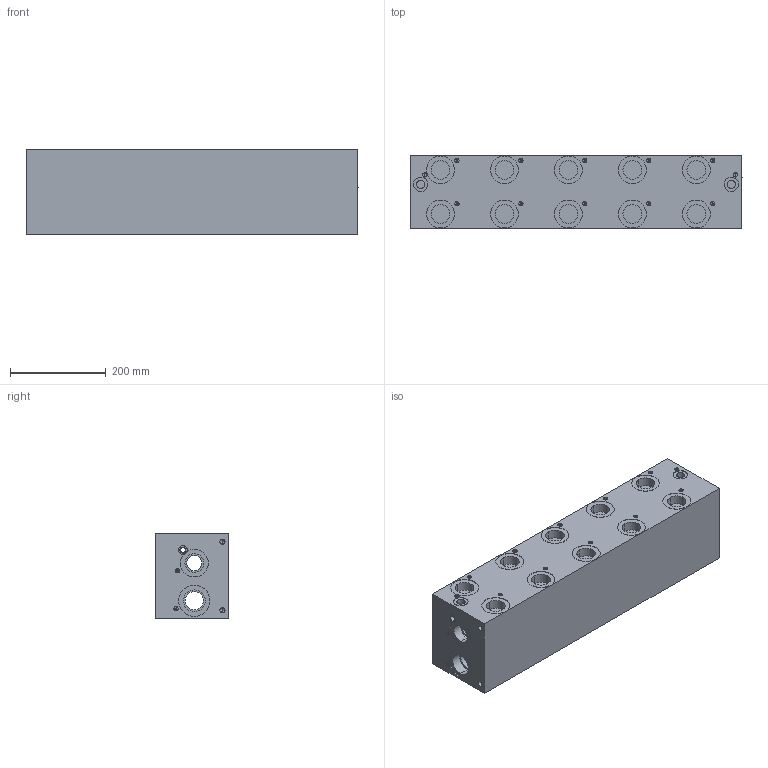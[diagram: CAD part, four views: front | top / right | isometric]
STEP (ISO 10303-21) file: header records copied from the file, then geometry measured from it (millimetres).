
FILE_DESCRIPTION (( 'STEP AP203' ), '1' );
FILE_NAME ('BMR-AHP08S5-05-1_Z.STEP', '2015-01-06T16:25:03', ( '' ), ( '' ), 'SwSTEP 2.0', 'SolidWorks 2014', '' );
FILE_SCHEMA (( 'CONFIG_CONTROL_DESIGN' ));
Length unit declared in the file: inch
Products named in the file (1): BMR-AHP08S5-05-1_Z
Bounding box: 692.15 x 152.4 x 177.8 mm (x, y, z)
Volume: 16884641.2 mm3; surface area: 757695 mm2
Topology: 1 solids, 1 shells, 856 faces, 2049 edges, 1240 vertices
Faces by surface type: cylinder 322, plane 321, cone 148, bspline 65
Entity records: 27482 total; most frequent: CARTESIAN_POINT 8167, DIRECTION 4003, ORIENTED_EDGE 3802, EDGE_CURVE 1901, AXIS2_PLACEMENT_3D 1440, VERTEX_POINT 1240, LINE 1123, VECTOR 1123
